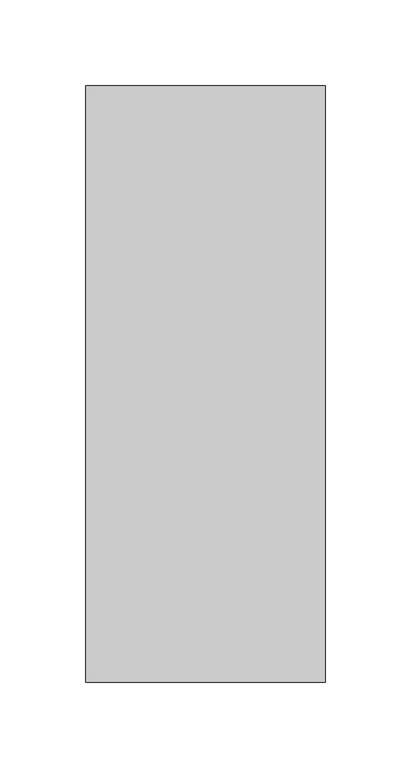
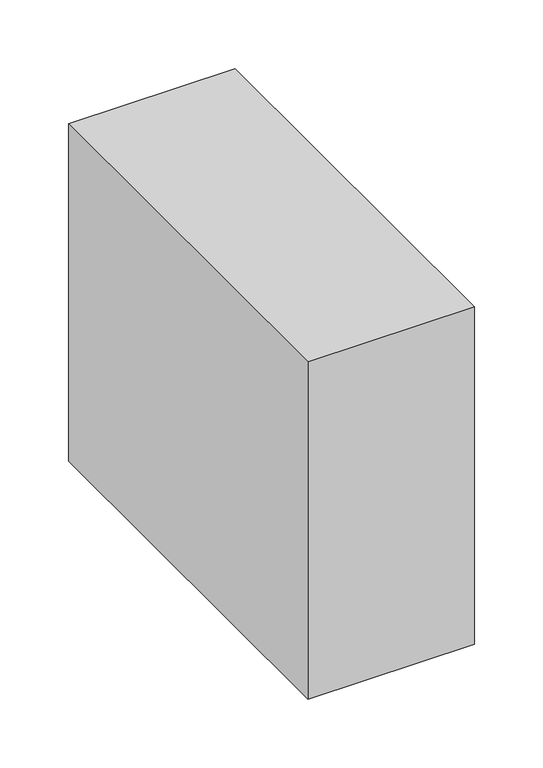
"""IFC4 building model written with IfcOpenShell, lengths in millimetres: proxy geometry."""

from ifc_helpers import new_model, si_unit, frame, origin, place, context, project, spatial, polyline, outline, extrude, source, transform, mapped, element, save


def structural_framing_61e1da89(model_context):
    return source(origin(), model_context, "Body", "SweptSolid", [
        extrude(outline(polyline([(70.0, -174.3625022), (-70.0, -174.3625022), (-70.0, 174.3625022), (70.0, 174.3625022), (70.0, -174.3625022)])), frame((0.0, 0.0, -300.0), z_axis=(0.0, 0.0, 1.0), x_axis=(1.0, 0.0, 0.0)), (0.0, 0.0, 1.0), 300.0),
    ])


if __name__ == "__main__":
    model = new_model("IFC4")
    model_context = context("Model", 3, world=origin())
    ifc_project = project(units=[si_unit("LENGTHUNIT", "METRE", prefix="MILLI")], contexts=[model_context])
    site = spatial("IfcSite", under=ifc_project)
    building = spatial("IfcBuilding", under=site)
    placement = place(None, origin())
    structural_framing_shape = structural_framing_61e1da89(model_context)
    element("IfcBuildingElementProxy", 1, Name="Structural Framing", at=placement, inside=building, context=model_context, shape_type="MappedRepresentation", body=[
        mapped(structural_framing_shape, transform((0.0, 0.0, 0.0), x_axis=(1.0, 0.0, 0.0), y_axis=(0.0, 1.0, 0.0), z_axis=(0.0, 0.0, 1.0))),
    ])
    save(model, "model.ifc")
